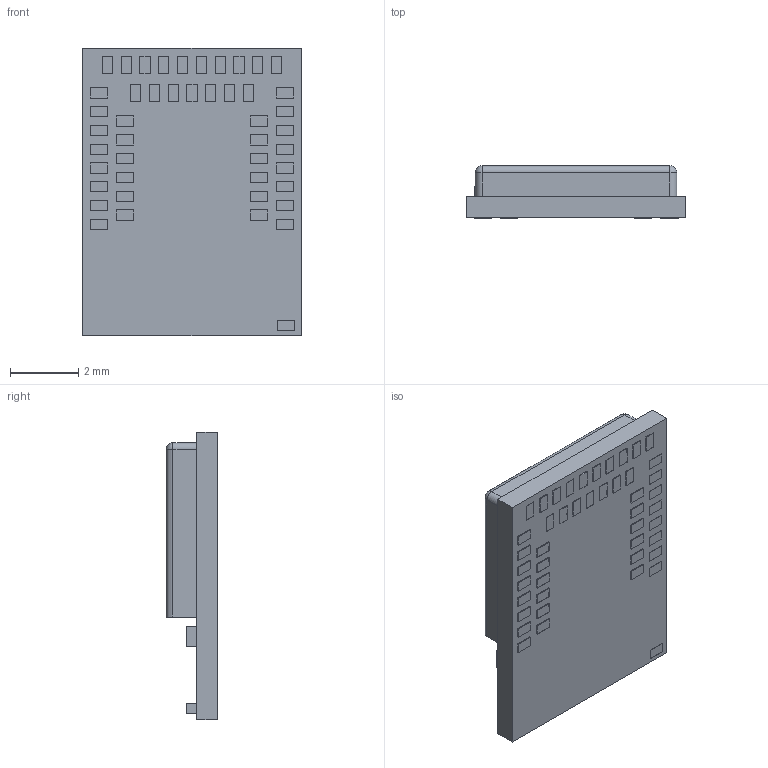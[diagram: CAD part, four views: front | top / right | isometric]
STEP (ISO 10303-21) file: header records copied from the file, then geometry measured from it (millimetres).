
FILE_DESCRIPTION((''),'2;1');
FILE_NAME('01-02-AN54LV-P15_ASM','2025-11-18T21:47:10',('curt_Chen'),(''),'CREO PARAMETRIC BY PTC INC, 2024063','CREO PARAMETRIC BY PTC INC, 2024063','');
FILE_SCHEMA(('AUTOMOTIVE_DESIGN { 1 0 10303 214 1 1 1 1 }'));
Length unit declared in the file: millimetre
Products named in the file (4): 02-02-PCB-AN54LV-P15; 02-CAPACITANCE-0201; 02-EMI-SHEILDING; 01-02-AN54LV-P15_ASM
Assembly tree (4 placements, depth 2):
  01-02-AN54LV-P15_ASM
    02-02-PCB-AN54LV-P15
    02-CAPACITANCE-0201  x2
    02-EMI-SHEILDING
Bounding box: 6.4 x 1.52 x 8.4 mm (x, y, z)
Volume: 40.7 mm3; surface area: 215.5 mm2
Topology: 4 solids, 4 shells, 272 faces, 826 edges, 792 vertices
Faces by surface type: plane 262, cylinder 7, sphere 3
Entity records: 11892 total; most frequent: CARTESIAN_POINT 1573, DIRECTION 1472, ORIENTED_EDGE 1260, PRESENTATION_STYLE_ASSIGNMENT 800, VECTOR 800, LINE 800, STYLED_ITEM 754, CURVE_STYLE 753
